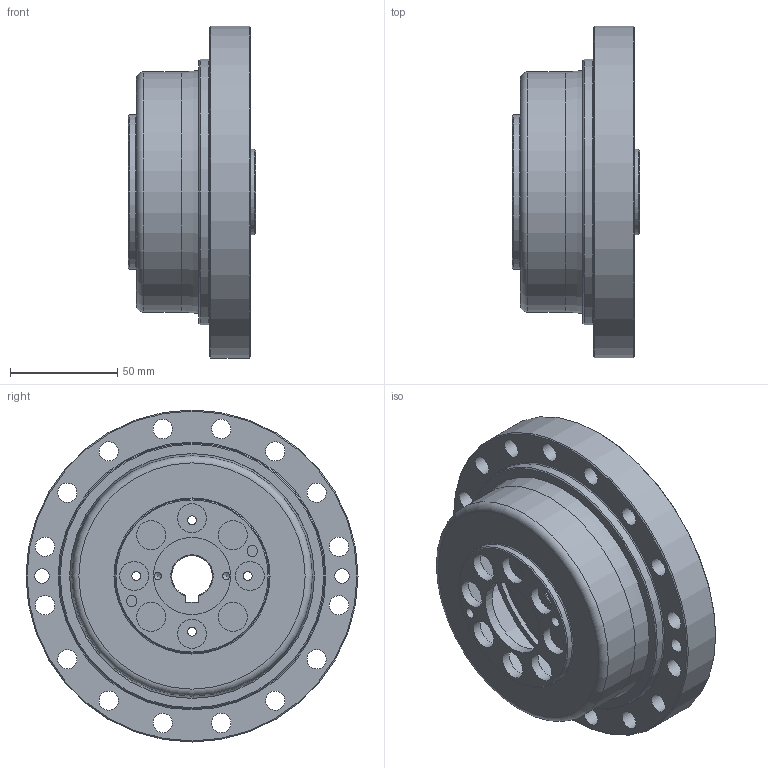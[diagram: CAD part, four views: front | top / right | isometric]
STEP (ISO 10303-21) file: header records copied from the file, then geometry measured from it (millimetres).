
FILE_DESCRIPTION (( 'STEP AP203' ), '1' );
FILE_NAME ('FCG-45-XXX-CJ.STEP', '2025-04-08T11:42:00', ( '微软用户' ), ( '微软中国' ), 'SwSTEP 2.0', 'SolidWorks 2016', '' );
FILE_SCHEMA (( 'CONFIG_CONTROL_DESIGN' ));
Length unit declared in the file: millimetre
Products named in the file (1): FCG-45-XXX-CJ
Bounding box: 59.48 x 155 x 155 mm (x, y, z)
Volume: 320776.4 mm3; surface area: 156414.4 mm2
Topology: 29 solids, 29 shells, 229 faces, 601 edges, 391 vertices
Faces by surface type: cylinder 102, plane 68, sphere 23, cone 21, torus 13, bspline 2
Full cylindrical faces by diameter (mm): 3.3 x2, 4.2 x4, 5 x2, 6.8 x2, 9 x18, 13.5 x8, 36 x1, 40 x2, 72 x1, 77.6 x1, 79.464 x1, 83 x1, 85.58 x2, 88 x1, 92 x1, 100 x1, 103.654 x2, 110.176 x1, 112.176 x1, 113.3 x1, 124 x1, 155 x1
Entity records: 7728 total; most frequent: CARTESIAN_POINT 2461, DIRECTION 1204, ORIENTED_EDGE 864, AXIS2_PLACEMENT_3D 551, EDGE_CURVE 432, EDGE_LOOP 378, VERTEX_POINT 334, CIRCLE 323
